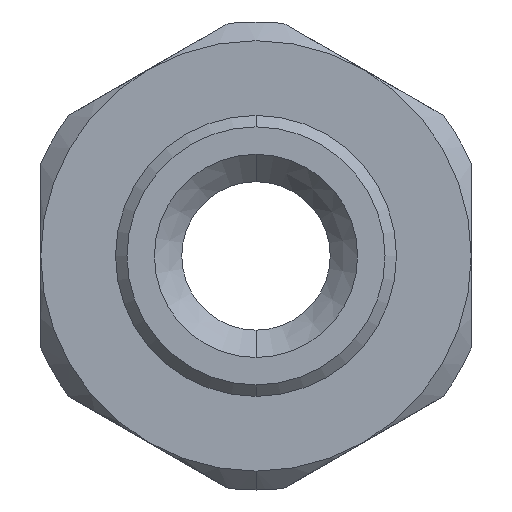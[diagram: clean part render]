
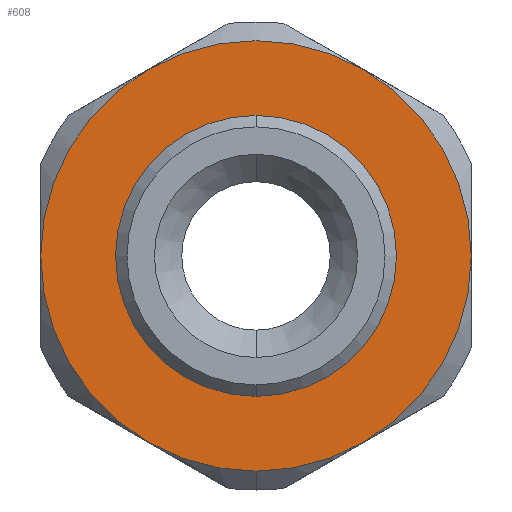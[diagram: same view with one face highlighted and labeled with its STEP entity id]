
A CAD part, front view. The second image highlights one B-rep face of the part: STEP entity #608.
In plain terms, the highlighted planar face has unit normal (0, -1, 0).
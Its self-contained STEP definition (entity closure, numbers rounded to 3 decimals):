
#63 = AXIS2_PLACEMENT_3D ( 'NONE', #853, #851, #837 ) ;
#64 = AXIS2_PLACEMENT_3D ( 'NONE', #1378, #1371, #1370 ) ;
#65 = AXIS2_PLACEMENT_3D ( 'NONE', #743, #804, #854 ) ;
#66 = AXIS2_PLACEMENT_3D ( 'NONE', #767, #857, #798 ) ;
#69 = AXIS2_PLACEMENT_3D ( 'NONE', #817, #782, #796 ) ;
#74 = AXIS2_PLACEMENT_3D ( 'NONE', #784, #777, #850 ) ;
#75 = AXIS2_PLACEMENT_3D ( 'NONE', #761, #865, #872 ) ;
#78 = AXIS2_PLACEMENT_3D ( 'NONE', #790, #816, #751 ) ;
#209 = AXIS2_PLACEMENT_3D ( 'NONE', #1131, #1130, #1129 ) ;
#212 = FACE_OUTER_BOUND ( 'NONE', #1505, .T. ) ;
#215 = FACE_BOUND ( 'NONE', #1504, .T. ) ;
#286 = AXIS2_PLACEMENT_3D ( 'NONE', #1261, #1254, #1253 ) ;
#474 = CIRCLE ( 'NONE', #63, 9.425 ) ;
#475 = CIRCLE ( 'NONE', #65, 9.425 ) ;
#476 = CIRCLE ( 'NONE', #66, 9.425 ) ;
#477 = CIRCLE ( 'NONE', #69, 9.425 ) ;
#478 = CIRCLE ( 'NONE', #75, 9.425 ) ;
#479 = CIRCLE ( 'NONE', #74, 6.15 ) ;
#480 = CIRCLE ( 'NONE', #78, 9.425 ) ;
#506 = CIRCLE ( 'NONE', #286, 6.15 ) ;
#526 = CIRCLE ( 'NONE', #64, 9.425 ) ;
#531 = EDGE_CURVE ( 'NONE', #1859, #1858, #526, .T. ) ;
#569 = EDGE_CURVE ( 'NONE', #1853, #1915, #506, .T. ) ;
#608 = ADVANCED_FACE ( 'NONE', ( #215, #212 ), #1132, .F. ) ;
#667 = EDGE_CURVE ( 'NONE', #1885, #1886, #480, .T. ) ;
#668 = EDGE_CURVE ( 'NONE', #1915, #1853, #479, .T. ) ;
#669 = EDGE_CURVE ( 'NONE', #1884, #1885, #478, .T. ) ;
#670 = EDGE_CURVE ( 'NONE', #1886, #1887, #477, .T. ) ;
#671 = EDGE_CURVE ( 'NONE', #1887, #1888, #476, .T. ) ;
#672 = EDGE_CURVE ( 'NONE', #1888, #1859, #475, .T. ) ;
#673 = EDGE_CURVE ( 'NONE', #1858, #1884, #474, .T. ) ;
#743 = CARTESIAN_POINT ( 'NONE',  ( 0., 1., 0. ) ) ;
#751 = DIRECTION ( 'NONE',  ( 0., 0., -1. ) ) ;
#761 = CARTESIAN_POINT ( 'NONE',  ( 0., 1., 0. ) ) ;
#767 = CARTESIAN_POINT ( 'NONE',  ( 0., 1., 0. ) ) ;
#777 = DIRECTION ( 'NONE',  ( 0., -1., 0. ) ) ;
#782 = DIRECTION ( 'NONE',  ( 0., -1., 0. ) ) ;
#784 = CARTESIAN_POINT ( 'NONE',  ( 0., 1., 0. ) ) ;
#790 = CARTESIAN_POINT ( 'NONE',  ( 0., 1., 0. ) ) ;
#796 = DIRECTION ( 'NONE',  ( 0., 0., -1. ) ) ;
#798 = DIRECTION ( 'NONE',  ( 0., 0., -1. ) ) ;
#804 = DIRECTION ( 'NONE',  ( 0., -1., 0. ) ) ;
#816 = DIRECTION ( 'NONE',  ( 0., -1., 0. ) ) ;
#817 = CARTESIAN_POINT ( 'NONE',  ( 0., 1., 0. ) ) ;
#837 = DIRECTION ( 'NONE',  ( 0., 0., -1. ) ) ;
#850 = DIRECTION ( 'NONE',  ( 0., 0., -1. ) ) ;
#851 = DIRECTION ( 'NONE',  ( 0., -1., 0. ) ) ;
#853 = CARTESIAN_POINT ( 'NONE',  ( 0., 1., 0. ) ) ;
#854 = DIRECTION ( 'NONE',  ( 0., 0., -1. ) ) ;
#857 = DIRECTION ( 'NONE',  ( 0., -1., 0. ) ) ;
#865 = DIRECTION ( 'NONE',  ( 0., -1., 0. ) ) ;
#872 = DIRECTION ( 'NONE',  ( 0., 0., -1. ) ) ;
#1129 = DIRECTION ( 'NONE',  ( 0., 0., 1. ) ) ;
#1130 = DIRECTION ( 'NONE',  ( 0., 1., 0. ) ) ;
#1131 = CARTESIAN_POINT ( 'NONE',  ( -10.25, 1., 0. ) ) ;
#1132 = PLANE ( 'NONE',  #209 ) ;
#1253 = DIRECTION ( 'NONE',  ( 0., 0., -1. ) ) ;
#1254 = DIRECTION ( 'NONE',  ( 0., -1., 0. ) ) ;
#1261 = CARTESIAN_POINT ( 'NONE',  ( 0., 1., 0. ) ) ;
#1370 = DIRECTION ( 'NONE',  ( 0., 0., -1. ) ) ;
#1371 = DIRECTION ( 'NONE',  ( 0., -1., 0. ) ) ;
#1378 = CARTESIAN_POINT ( 'NONE',  ( 0., 1., 0. ) ) ;
#1504 = EDGE_LOOP ( 'NONE', ( #1568, #1569 ) ) ;
#1505 = EDGE_LOOP ( 'NONE', ( #1570, #1572, #1571, #1573, #1574, #1575, #1576 ) ) ;
#1568 = ORIENTED_EDGE ( 'NONE', *, *, #569, .F. ) ;
#1569 = ORIENTED_EDGE ( 'NONE', *, *, #668, .F. ) ;
#1570 = ORIENTED_EDGE ( 'NONE', *, *, #669, .T. ) ;
#1571 = ORIENTED_EDGE ( 'NONE', *, *, #670, .T. ) ;
#1572 = ORIENTED_EDGE ( 'NONE', *, *, #667, .T. ) ;
#1573 = ORIENTED_EDGE ( 'NONE', *, *, #671, .T. ) ;
#1574 = ORIENTED_EDGE ( 'NONE', *, *, #672, .T. ) ;
#1575 = ORIENTED_EDGE ( 'NONE', *, *, #531, .T. ) ;
#1576 = ORIENTED_EDGE ( 'NONE', *, *, #673, .T. ) ;
#1853 = VERTEX_POINT ( 'NONE', #2211 ) ;
#1858 = VERTEX_POINT ( 'NONE', #2290 ) ;
#1859 = VERTEX_POINT ( 'NONE', #2289 ) ;
#1884 = VERTEX_POINT ( 'NONE', #2260 ) ;
#1885 = VERTEX_POINT ( 'NONE', #2258 ) ;
#1886 = VERTEX_POINT ( 'NONE', #2257 ) ;
#1887 = VERTEX_POINT ( 'NONE', #2255 ) ;
#1888 = VERTEX_POINT ( 'NONE', #2254 ) ;
#1915 = VERTEX_POINT ( 'NONE', #2224 ) ;
#2211 = CARTESIAN_POINT ( 'NONE',  ( 0., 1., -6.15 ) ) ;
#2224 = CARTESIAN_POINT ( 'NONE',  ( 0., 1., 6.15 ) ) ;
#2254 = CARTESIAN_POINT ( 'NONE',  ( -4.713, 1., -8.162 ) ) ;
#2255 = CARTESIAN_POINT ( 'NONE',  ( -9.425, 1., 0. ) ) ;
#2257 = CARTESIAN_POINT ( 'NONE',  ( -4.713, 1., 8.162 ) ) ;
#2258 = CARTESIAN_POINT ( 'NONE',  ( 4.712, 1., 8.162 ) ) ;
#2260 = CARTESIAN_POINT ( 'NONE',  ( 9.425, 1., 0. ) ) ;
#2289 = CARTESIAN_POINT ( 'NONE',  ( 0., 1., -9.425 ) ) ;
#2290 = CARTESIAN_POINT ( 'NONE',  ( 4.713, 1., -8.162 ) ) ;
